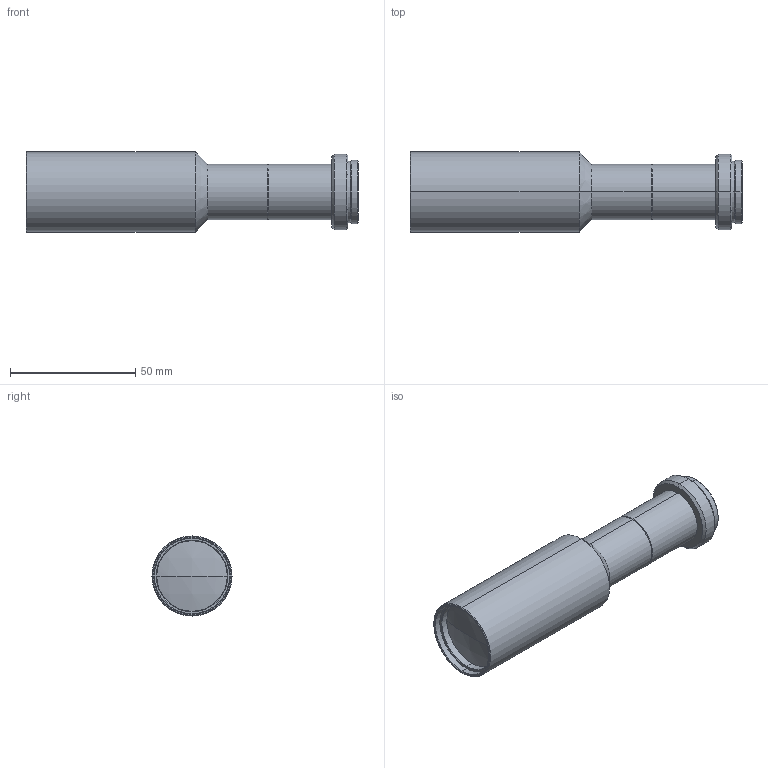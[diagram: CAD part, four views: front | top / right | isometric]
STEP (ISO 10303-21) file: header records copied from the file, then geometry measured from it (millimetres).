
FILE_DESCRIPTION (( 'STEP AP203' ), '1' );
FILE_NAME ('VS-TCH05-110.STEP', '2013-09-11T06:51:29', ( 'VS Technology' ), ( '' ), 'SwSTEP 2.0', 'SolidWorks 2012', '' );
FILE_SCHEMA (( 'CONFIG_CONTROL_DESIGN' ));
Length unit declared in the file: millimetre
Products named in the file (1): VS-TCH05-110
Bounding box: 132.5 x 32 x 32 mm (x, y, z)
Volume: 71997.2 mm3; surface area: 15589.4 mm2
Topology: 1 solids, 1 shells, 77 faces, 156 edges, 90 vertices
Faces by surface type: cone 36, cylinder 28, plane 9, sphere 4
Entity records: 2083 total; most frequent: DIRECTION 404, CARTESIAN_POINT 324, ORIENTED_EDGE 312, AXIS2_PLACEMENT_3D 170, EDGE_CURVE 156, CIRCLE 92, VERTEX_POINT 90, EDGE_LOOP 86
